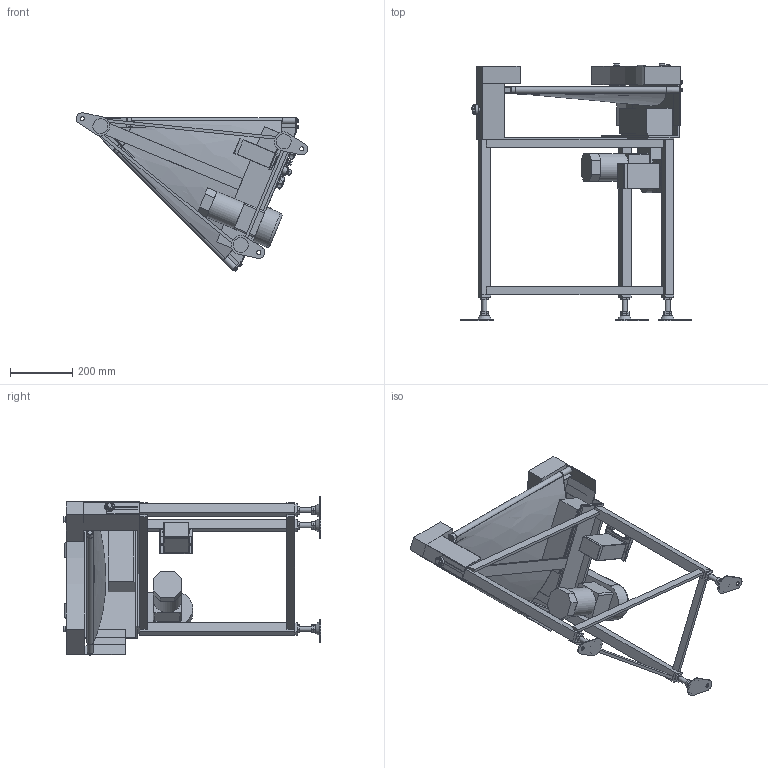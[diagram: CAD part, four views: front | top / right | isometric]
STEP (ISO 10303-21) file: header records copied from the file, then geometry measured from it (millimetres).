
FILE_DESCRIPTION (( 'STEP AP214' ), '1' );
FILE_NAME ('GBC45-UD400-L.STEP', '2022-12-05T07:29:05', ( '' ), ( '' ), 'SwSTEP 2.0', 'SolidWorks 2017', '' );
FILE_SCHEMA (( 'AUTOMOTIVE_DESIGN' ));
Length unit declared in the file: millimetre
Products named in the file (1): GBC45-UD400-L
Bounding box: 742.93 x 827.92 x 509.2 mm (x, y, z)
Volume: 13669565.4 mm3; surface area: 2487446.8 mm2
Topology: 56 solids, 56 shells, 886 faces, 2030 edges, 1310 vertices
Faces by surface type: plane 578, cylinder 185, bspline 59, cone 49, torus 8, sphere 7
Full cylindrical faces by diameter (mm): 4.2 x4, 4.5 x2, 5 x4, 6 x13, 6.4 x4, 7 x3, 8 x1, 9 x2, 10 x6, 12 x1, 12.2 x2, 12.5 x7, 13 x7, 15 x4, 16 x10, 18 x2, 18.4 x1, 20 x6, 21 x1, 22.2 x1, 25 x1, 30 x1, 89 x1
Entity records: 32047 total; most frequent: CARTESIAN_POINT 12362, ORIENTED_EDGE 3758, DIRECTION 3727, EDGE_CURVE 1879, VERTEX_POINT 1280, AXIS2_PLACEMENT_3D 1260, VECTOR 1207, LINE 1207
